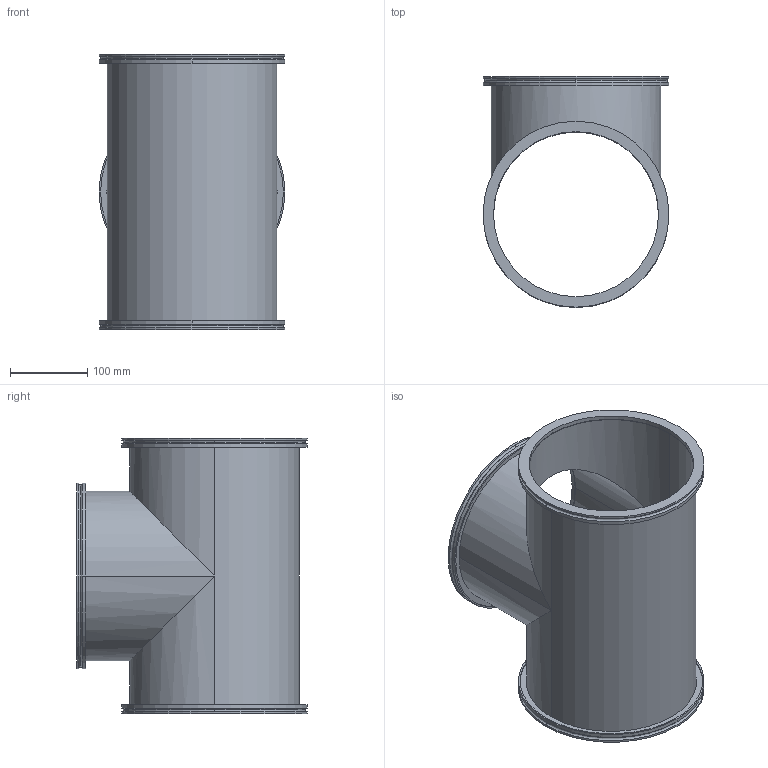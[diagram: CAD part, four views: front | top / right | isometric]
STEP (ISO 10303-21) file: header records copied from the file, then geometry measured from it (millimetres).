
FILE_DESCRIPTION((''),'2;1');
FILE_NAME('W:\212-114\212-114.stp','2003-11-26T16:27:15',('KAA'),(''),'Autodesk Inventor (R) 6.0','Autodesk Inventor (R) 6.0','');
FILE_SCHEMA(('CONFIG_CONTROL_DESIGN'));
Length unit declared in the file: millimetre
Products named in the file (1): 212-114
Bounding box: 240 x 298 x 356 mm (x, y, z)
Volume: 1015229.2 mm3; surface area: 627996.4 mm2
Topology: 1 solids, 1 shells, 91 faces, 205 edges, 127 vertices
Faces by surface type: cylinder 40, plane 15, bspline 12, torus 12, cone 12
Entity records: 3181 total; most frequent: CARTESIAN_POINT 952, DIRECTION 516, ORIENTED_EDGE 410, AXIS2_PLACEMENT_3D 231, EDGE_CURVE 205, CIRCLE 147, VERTEX_POINT 127, EDGE_LOOP 106
